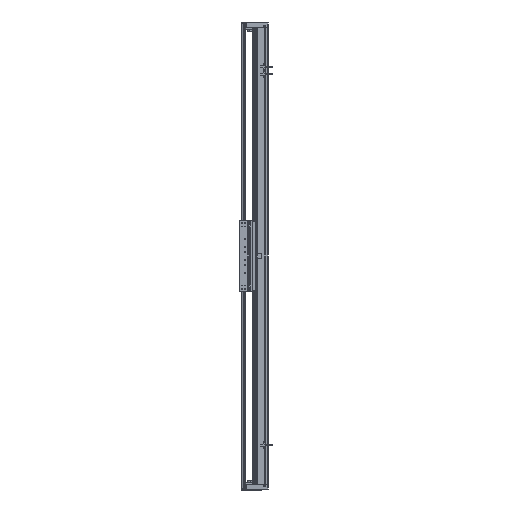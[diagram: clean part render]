
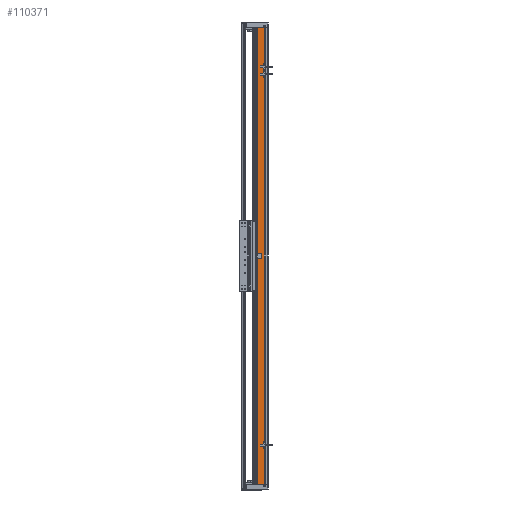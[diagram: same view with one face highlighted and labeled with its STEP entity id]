
A CAD part, left-side view. The second image highlights one B-rep face of the part: STEP entity #110371.
In plain terms, the highlighted planar face has unit normal (-1, 0, 0).
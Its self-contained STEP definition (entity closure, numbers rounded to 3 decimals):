
#1141 = CARTESIAN_POINT ( 'NONE',  ( -97.5, 36.95, 810. ) ) ;
#3692 = CARTESIAN_POINT ( 'NONE',  ( -97.5, 36.95, 810. ) ) ;
#6360 = VECTOR ( 'NONE', #115635, 1000. ) ;
#6643 = DIRECTION ( 'NONE',  ( 0., 0., -1. ) ) ;
#12009 = VERTEX_POINT ( 'NONE', #48654 ) ;
#14668 = DIRECTION ( 'NONE',  ( 0., 0., -1. ) ) ;
#18560 = CARTESIAN_POINT ( 'NONE',  ( -97.5, 36.95, 810. ) ) ;
#22124 = CARTESIAN_POINT ( 'NONE',  ( -97.5, 36.95, -810. ) ) ;
#25804 = VERTEX_POINT ( 'NONE', #78111 ) ;
#33108 = LINE ( 'NONE', #76165, #136935 ) ;
#42166 = ORIENTED_EDGE ( 'NONE', *, *, #76760, .F. ) ;
#45131 = DIRECTION ( 'NONE',  ( 1., 0., 0. ) ) ;
#48654 = CARTESIAN_POINT ( 'NONE',  ( -97.5, 14.45, 810. ) ) ;
#57540 = LINE ( 'NONE', #128318, #68371 ) ;
#67702 = LINE ( 'NONE', #22124, #6360 ) ;
#68371 = VECTOR ( 'NONE', #6643, 1000. ) ;
#76165 = CARTESIAN_POINT ( 'NONE',  ( -97.5, 36.95, 810. ) ) ;
#76760 = EDGE_CURVE ( 'NONE', #90926, #12009, #33108, .T. ) ;
#78111 = CARTESIAN_POINT ( 'NONE',  ( -97.5, 14.45, -810. ) ) ;
#79579 = VERTEX_POINT ( 'NONE', #103674 ) ;
#90926 = VERTEX_POINT ( 'NONE', #1141 ) ;
#93519 = EDGE_CURVE ( 'NONE', #90926, #79579, #97173, .T. ) ;
#96435 = AXIS2_PLACEMENT_3D ( 'NONE', #18560, #45131, #140236 ) ;
#97173 = LINE ( 'NONE', #3692, #131851 ) ;
#103674 = CARTESIAN_POINT ( 'NONE',  ( -97.5, 36.95, -810. ) ) ;
#110371 = ADVANCED_FACE ( 'NONE', ( #150489 ), #152781, .F. ) ;
#113997 = ORIENTED_EDGE ( 'NONE', *, *, #152596, .T. ) ;
#115635 = DIRECTION ( 'NONE',  ( 0., -1., 0. ) ) ;
#124812 = EDGE_CURVE ( 'NONE', #12009, #25804, #57540, .T. ) ;
#126403 = DIRECTION ( 'NONE',  ( 0., -1., 0. ) ) ;
#128318 = CARTESIAN_POINT ( 'NONE',  ( -97.5, 14.45, 810. ) ) ;
#131851 = VECTOR ( 'NONE', #14668, 1000. ) ;
#136207 = ORIENTED_EDGE ( 'NONE', *, *, #93519, .T. ) ;
#136935 = VECTOR ( 'NONE', #126403, 1000. ) ;
#140236 = DIRECTION ( 'NONE',  ( 0., 1., 0. ) ) ;
#145552 = ORIENTED_EDGE ( 'NONE', *, *, #124812, .F. ) ;
#150489 = FACE_OUTER_BOUND ( 'NONE', #153833, .T. ) ;
#152596 = EDGE_CURVE ( 'NONE', #79579, #25804, #67702, .T. ) ;
#152781 = PLANE ( 'NONE',  #96435 ) ;
#153833 = EDGE_LOOP ( 'NONE', ( #113997, #145552, #42166, #136207 ) ) ;
